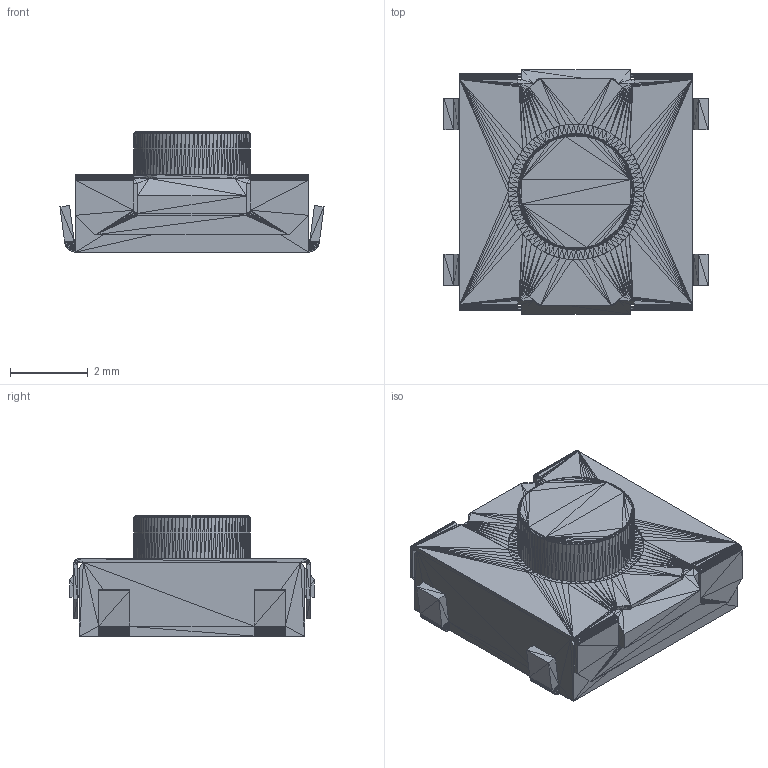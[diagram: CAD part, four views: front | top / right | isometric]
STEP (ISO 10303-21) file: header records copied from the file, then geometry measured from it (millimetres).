
FILE_DESCRIPTION(('STEP AP214'),'1');
FILE_NAME('TSSF 62 x-J-LF.stp','2025-01-27T14:41:14',(' '),(' '),'Spatial InterOp 3D',' ',' ');
FILE_SCHEMA(('automotive_design'));
Length unit declared in the file: metre
Products named in the file (1): Root
Bounding box: 6.81 x 6.3 x 3.1 mm (x, y, z)
Surface area: 250 mm2 (no closed solid volume)
Topology: 0 solids, 8524 shells, 8524 faces, 25572 edges, 7690 vertices
Faces by surface type: plane 8524
Entity records: 271124 total; most frequent: DIRECTION 42622, ORIENTED_EDGE 25572, EDGE_CURVE 25572, LINE 25572, VECTOR 25572, AXIS2_PLACEMENT_3D 8525, STYLED_ITEM 8524, PRESENTATION_STYLE_ASSIGNMENT 8524
